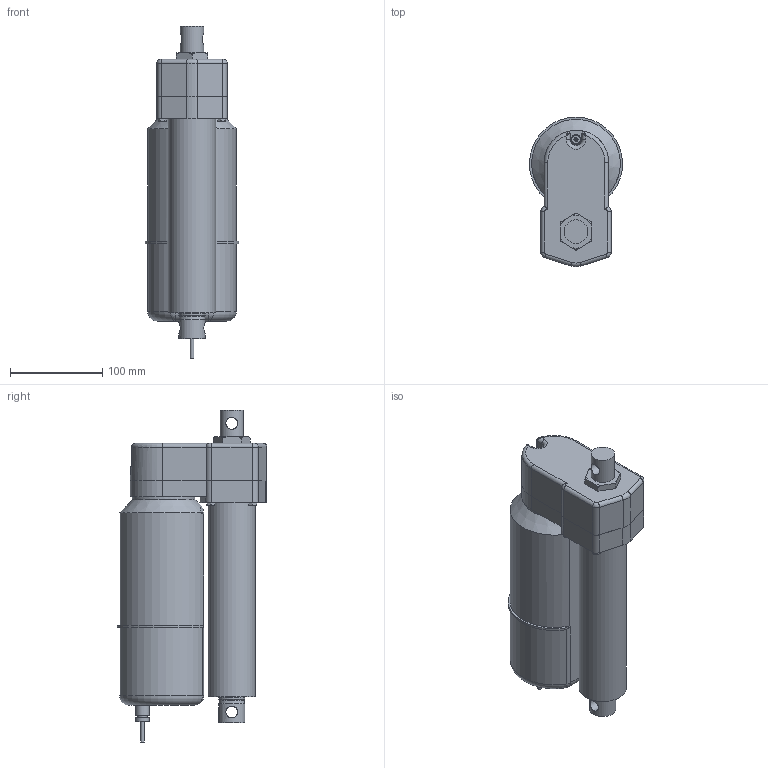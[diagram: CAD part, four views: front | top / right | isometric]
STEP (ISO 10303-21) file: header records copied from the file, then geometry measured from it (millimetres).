
FILE_DESCRIPTION (( 'STEP AP214' ), '1' );
FILE_NAME ('A22-05A5-06M0N-tollo.step', '2020-04-05T11:58:31', ( '' ), ( '' ), 'SwSTEP 2.0', 'SolidWorks 2010', '' );
FILE_SCHEMA (( 'AUTOMOTIVE_DESIGN' ));
Length unit declared in the file: millimetre
Products named in the file (7): Electrak-LA5-Motor-A22-05A5-06M0N-tollo_Electrak-LA5-Motor-A22-05A5-06M0N-tollo; Electrak-LA5-Rear-A22-05A5-06M0N-tollo_Electrak-LA5-Rear-A22-05A5-06M0N-tollo; Electrak-LA5-Tube-A22-05A5-06M0N-tollo_Electrak-LA5-Tube-A22-05A5-06M0N-tollo; Electrak-LA5-Rod-A22-05A5-06M0N-tollo_Electrak-LA5-Rod-A22-05A5-06M0N-tollo; Screw-MFX-H-M5-A22-05A5-06M0N-tollo_Screw-MFX-H-M5-A22-05A5-06M0N-tollo; Screw-M6S-M5-A22-05A5-06M0N-tollo_Screw-M6S-M5-A22-05A5-06M0N-tollo; A22-05A5-06M0N-tollo
Assembly tree (9 placements, depth 2):
  A22-05A5-06M0N-tollo
    Electrak-LA5-Rear-A22-05A5-06M0N-tollo_Electrak-LA5-Rear-A22-05A5-06M0N-tollo
    Screw-MFX-H-M5-A22-05A5-06M0N-tollo_Screw-MFX-H-M5-A22-05A5-06M0N-tollo
    Electrak-LA5-Tube-A22-05A5-06M0N-tollo_Electrak-LA5-Tube-A22-05A5-06M0N-tollo
    Screw-M6S-M5-A22-05A5-06M0N-tollo_Screw-M6S-M5-A22-05A5-06M0N-tollo  x4
    Electrak-LA5-Motor-A22-05A5-06M0N-tollo_Electrak-LA5-Motor-A22-05A5-06M0N-tollo
    Electrak-LA5-Rod-A22-05A5-06M0N-tollo_Electrak-LA5-Rod-A22-05A5-06M0N-tollo
Bounding box: 100.99 x 162.5 x 360.1 mm (x, y, z)
Volume: 2613057.3 mm3; surface area: 223101.3 mm2
Topology: 9 solids, 9 shells, 238 faces, 549 edges, 347 vertices
Faces by surface type: plane 95, cylinder 92, cone 31, torus 15, bspline 3, sphere 2
Full cylindrical faces by diameter (mm): 4 x1, 4.126 x5, 4.8 x2, 5 x13, 7.878 x4, 9.3 x1, 10 x1, 12.8 x2, 15 x2, 25.4 x1, 28.6 x4, 51.3 x1, 68 x1
Entity records: 5776 total; most frequent: CARTESIAN_POINT 1721, DIRECTION 806, ORIENTED_EDGE 666, AXIS2_PLACEMENT_3D 339, EDGE_CURVE 333, EDGE_LOOP 245, VERTEX_POINT 236, FACE_OUTER_BOUND 198
